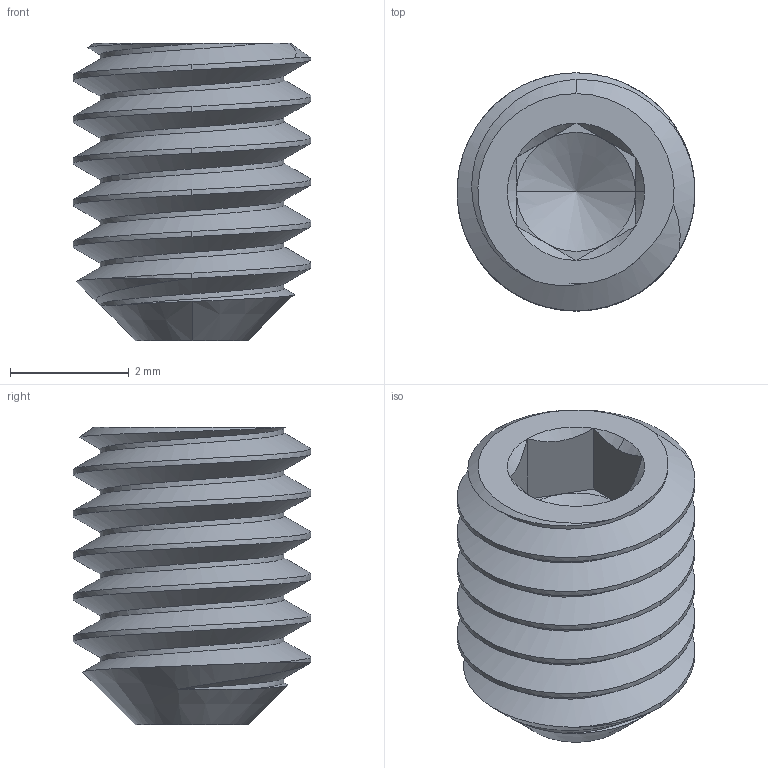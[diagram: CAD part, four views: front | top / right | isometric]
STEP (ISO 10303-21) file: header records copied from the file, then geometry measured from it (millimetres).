
FILE_DESCRIPTION (( 'STEP AP203' ), '1' );
FILE_NAME ('Cup-Point Set Screw 4x5.STEP', '2025-09-25T16:33:25', ( '' ), ( '' ), 'SwSTEP 2.0', 'SolidWorks 2024', '' );
FILE_SCHEMA (( 'CONFIG_CONTROL_DESIGN' ));
Length unit declared in the file: millimetre
Products named in the file (1): Cup-Point Set Screw 4x5
Bounding box: 4 x 4 x 5 mm (x, y, z)
Volume: 40.7 mm3; surface area: 111.6 mm2
Topology: 1 solids, 1 shells, 43 faces, 103 edges, 59 vertices
Faces by surface type: cone 15, plane 13, cylinder 12, bspline 3
Entity records: 2169 total; most frequent: CARTESIAN_POINT 1233, ORIENTED_EDGE 198, DIRECTION 157, EDGE_CURVE 99, AXIS2_PLACEMENT_3D 60, VERTEX_POINT 59, EDGE_LOOP 44, ADVANCED_FACE 43
